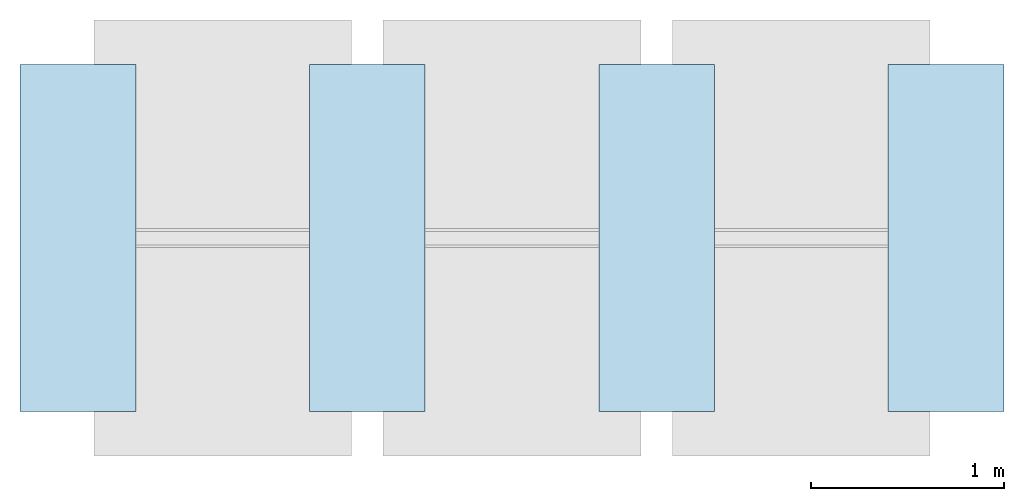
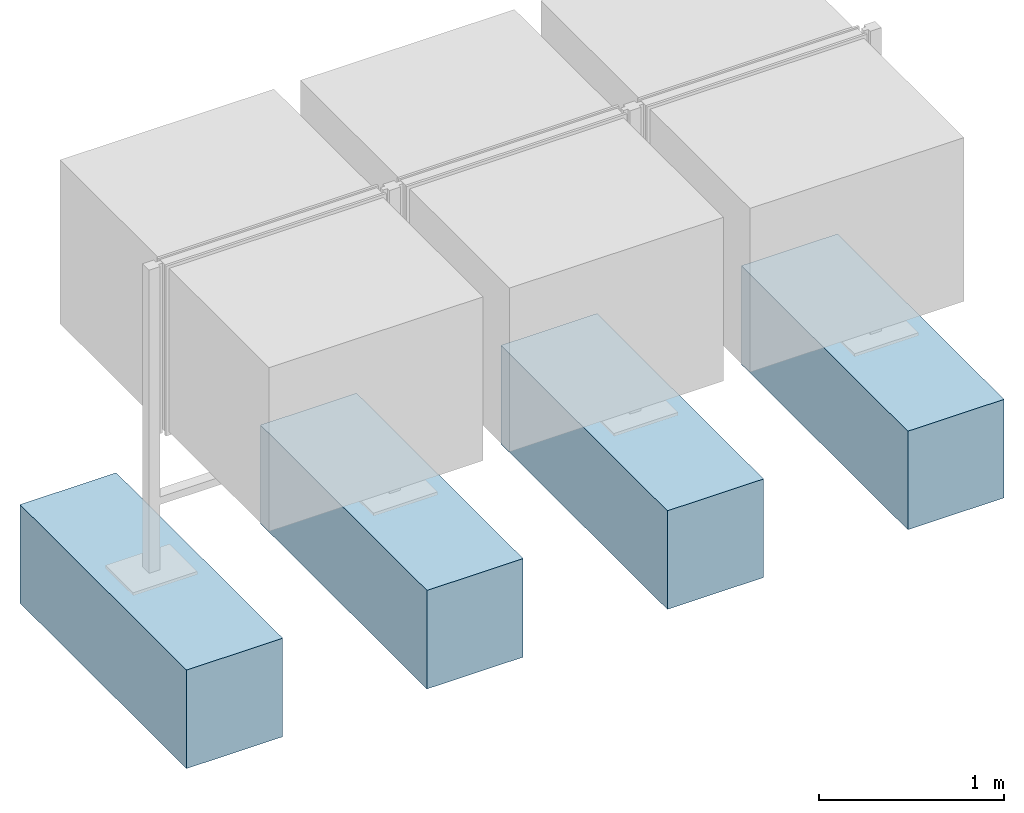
# One storey, incomplete: 4 slabs.
"""IFC4 building model written with IfcOpenShell, lengths in metres."""

from ifc_helpers import new_model, entity, si_unit, converted_unit, direction, frame, frame_2d, origin, origin_2d_with_axis, place, context, subcontext, project, spatial, rectangle, extrude, material, type_object, element, save


model = new_model("IFC4")

# Units and contexts
model_context = context("Model", 3, precision=1e-05, world=origin(), true_north=direction((6.123031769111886e-17, 1.0)))
body_context = subcontext(model_context, "Body", "Model", "MODEL_VIEW")
ifc_project = project(units=[si_unit("LENGTHUNIT", "METRE"), converted_unit("PLANEANGLEUNIT", "DEGREE", entity("IfcPlaneAngleMeasure", 0.017453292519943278), si_unit("PLANEANGLEUNIT", "RADIAN"), dimensions=[0, 0, 0, 0, 0, 0, 0]), si_unit("AREAUNIT", "SQUARE_METRE")], contexts=[model_context])

# Site, building, storey
site_placement = place(None, origin())
site = spatial("IfcSite", under=ifc_project, at=site_placement, Name="Default", CompositionType="ELEMENT")
building_placement = place(site_placement, origin())
building = spatial("IfcBuilding", under=site, at=building_placement, CompositionType="ELEMENT")
storey_placement = place(building_placement, origin())
storey = spatial("IfcBuildingStorey", under=building, at=storey_placement, Name="DB_Bezugshoehe_max_Bahnsteigkante", CompositionType="ELEMENT", Elevation=0.0)

# Slabs
ifc_material = material(Name="DB_Ortbeton", Category="DB_Beton")
slab_type = type_object("IfcSlabType", Name="DB_Vitrine_Fundament:DB_Vitrine_Fundament", PredefinedType="BASESLAB", material=ifc_material)
slab_1_placement = place(storey_placement, origin())
element("IfcSlab", 1, at=slab_1_placement, inside=storey, type_object=slab_type, Name="DB_Vitrine_Fundament:DB_Vitrine_Fundament", ObjectType="DB_Vitrine_Fundament:DB_Vitrine_Fundament", PredefinedType="BASESLAB", context=body_context, shape_type="SweptSolid", body=[
    extrude(rectangle(XDim=1.8, YDim=0.5999999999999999, at=origin_2d_with_axis()), frame((0.0, 0.0, 0.04999999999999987), z_axis=(0.0, 0.0, 1.0), x_axis=(0.0, 1.0, 0.0)), (0.0, 0.0, 1.0), 0.5999999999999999),
    extrude(rectangle(XDim=0.5999999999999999, YDim=1.7999999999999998, at=origin_2d_with_axis()), frame((0.0, 0.0, 0.0), z_axis=(0.0, 0.0, 1.0), x_axis=(-1.0, 0.0, 0.0)), (0.0, 0.0, 1.0), 0.04999999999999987),
])
slab_2_placement = place(storey_placement, origin())
element("IfcSlab", 2, at=slab_2_placement, inside=storey, type_object=slab_type, Name="DB_Vitrine_Fundament:DB_Vitrine_Fundament", ObjectType="DB_Vitrine_Fundament:DB_Vitrine_Fundament", PredefinedType="BASESLAB", context=body_context, shape_type="SweptSolid", body=[
    extrude(rectangle(XDim=1.8, YDim=0.5999999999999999, at=frame_2d((0.0, -8.326672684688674e-17), x_axis=(1.0, 0.0))), frame((1.5000000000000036, 0.0, 0.04999999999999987), z_axis=(0.0, 0.0, 1.0), x_axis=(0.0, 1.0, 0.0)), (0.0, 0.0, 1.0), 0.5999999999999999),
    extrude(rectangle(XDim=0.5999999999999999, YDim=1.7999999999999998, at=frame_2d((-1.3877787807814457e-16, 0.0), x_axis=(1.0, 0.0))), frame((1.5000000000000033, 0.0, 0.0), z_axis=(0.0, 0.0, 1.0), x_axis=(-1.0, 0.0, 0.0)), (0.0, 0.0, 1.0), 0.04999999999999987),
])
slab_3_placement = place(storey_placement, origin())
element("IfcSlab", 3, at=slab_3_placement, inside=storey, type_object=slab_type, Name="DB_Vitrine_Fundament:DB_Vitrine_Fundament", ObjectType="DB_Vitrine_Fundament:DB_Vitrine_Fundament", PredefinedType="BASESLAB", context=body_context, shape_type="SweptSolid", body=[
    extrude(rectangle(XDim=1.8, YDim=0.6000000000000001, at=origin_2d_with_axis()), frame((3.0, 0.0, 0.04999999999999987), z_axis=(0.0, 0.0, 1.0), x_axis=(0.0, 1.0, 0.0)), (0.0, 0.0, 1.0), 0.5999999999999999),
    extrude(rectangle(XDim=0.6000000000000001, YDim=1.7999999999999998, at=origin_2d_with_axis()), frame((3.0, 0.0, 0.0), z_axis=(0.0, 0.0, 1.0), x_axis=(-1.0, 0.0, 0.0)), (0.0, 0.0, 1.0), 0.04999999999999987),
])
slab_4_placement = place(storey_placement, origin())
element("IfcSlab", 4, at=slab_4_placement, inside=storey, type_object=slab_type, Name="DB_Vitrine_Fundament:DB_Vitrine_Fundament", ObjectType="DB_Vitrine_Fundament:DB_Vitrine_Fundament", PredefinedType="BASESLAB", context=body_context, shape_type="SweptSolid", body=[
    extrude(rectangle(XDim=1.8, YDim=0.6000000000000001, at=origin_2d_with_axis()), frame((4.500000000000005, 0.0, 0.04999999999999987), z_axis=(0.0, 0.0, 1.0), x_axis=(0.0, 1.0, 0.0)), (0.0, 0.0, 1.0), 0.5999999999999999),
    extrude(rectangle(XDim=0.6000000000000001, YDim=1.7999999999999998, at=origin_2d_with_axis()), frame((4.500000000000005, 0.0, 0.0), z_axis=(0.0, 0.0, 1.0), x_axis=(-1.0, 0.0, 0.0)), (0.0, 0.0, 1.0), 0.04999999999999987),
])

save(model, "model.ifc")
